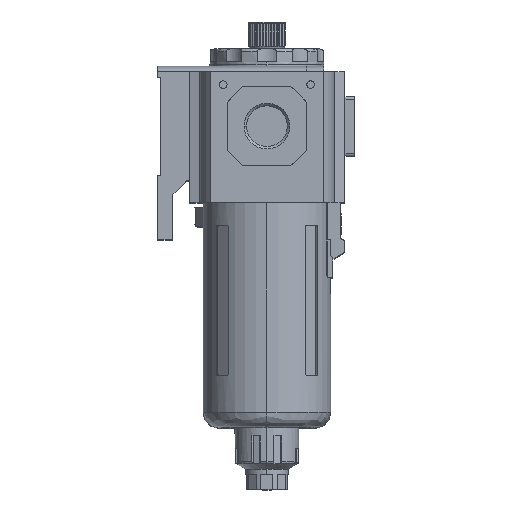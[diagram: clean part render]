
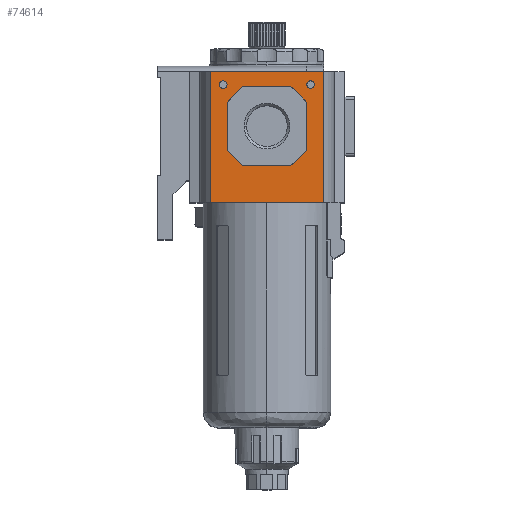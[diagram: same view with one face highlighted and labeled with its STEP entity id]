
A CAD part, top view. The second image highlights one B-rep face of the part: STEP entity #74614.
In plain terms, the highlighted planar face has unit normal (0, 0, 1).
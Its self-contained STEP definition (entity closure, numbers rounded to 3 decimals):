
#118 = CARTESIAN_POINT ( 'NONE',  ( 0., 25., 118. ) ) ;
#421 = EDGE_LOOP ( 'NONE', ( #84205, #5687, #84045, #11872 ) ) ;
#860 = ORIENTED_EDGE ( 'NONE', *, *, #77467, .T. ) ;
#1846 = DIRECTION ( 'NONE',  ( 0., 0., -1. ) ) ;
#3131 = ORIENTED_EDGE ( 'NONE', *, *, #83010, .F. ) ;
#3218 = CARTESIAN_POINT ( 'NONE',  ( 18.25, 19., 118. ) ) ;
#4261 = ORIENTED_EDGE ( 'NONE', *, *, #77074, .T. ) ;
#4392 = LINE ( 'NONE', #63467, #58930 ) ;
#4476 = CARTESIAN_POINT ( 'NONE',  ( 26., -35., 118. ) ) ;
#5687 = ORIENTED_EDGE ( 'NONE', *, *, #78555, .F. ) ;
#5715 = AXIS2_PLACEMENT_3D ( 'NONE', #35099, #7613, #42508 ) ;
#6209 = EDGE_CURVE ( 'NONE', #7912, #22735, #31736, .T. ) ;
#6896 = ORIENTED_EDGE ( 'NONE', *, *, #89809, .F. ) ;
#7613 = DIRECTION ( 'NONE',  ( 0., 0., -1. ) ) ;
#7912 = VERTEX_POINT ( 'NONE', #24900 ) ;
#8388 = CARTESIAN_POINT ( 'NONE',  ( 20., 19., 118. ) ) ;
#8746 = EDGE_LOOP ( 'NONE', ( #49155, #6896, #4261, #75409, #860, #71697, #43169, #3131 ) ) ;
#8793 = VECTOR ( 'NONE', #72479, 1000. ) ;
#8865 = AXIS2_PLACEMENT_3D ( 'NONE', #87047, #74004, #16283 ) ;
#9017 = AXIS2_PLACEMENT_3D ( 'NONE', #8388, #1846, #88819 ) ;
#10400 = DIRECTION ( 'NONE',  ( -0.707, -0.707, 0. ) ) ;
#10912 = CARTESIAN_POINT ( 'NONE',  ( 14., -15., 118. ) ) ;
#11872 = ORIENTED_EDGE ( 'NONE', *, *, #33104, .T. ) ;
#12635 = LINE ( 'NONE', #91559, #85921 ) ;
#12652 = CARTESIAN_POINT ( 'NONE',  ( -20., 19., 118. ) ) ;
#13130 = ORIENTED_EDGE ( 'NONE', *, *, #15030, .T. ) ;
#14952 = VECTOR ( 'NONE', #10400, 1000. ) ;
#15030 = EDGE_CURVE ( 'NONE', #22735, #7912, #43018, .T. ) ;
#15329 = CARTESIAN_POINT ( 'NONE',  ( -26., -35., 118. ) ) ;
#16283 = DIRECTION ( 'NONE',  ( 1., 0., 0. ) ) ;
#16629 = CARTESIAN_POINT ( 'NONE',  ( -26., -35., 118. ) ) ;
#16875 = VERTEX_POINT ( 'NONE', #10912 ) ;
#17642 = FACE_BOUND ( 'NONE', #8746, .T. ) ;
#18190 = LINE ( 'NONE', #70595, #20427 ) ;
#18534 = CARTESIAN_POINT ( 'NONE',  ( 15., -14., 118. ) ) ;
#19806 = DIRECTION ( 'NONE',  ( 1., 0., 0. ) ) ;
#19944 = EDGE_LOOP ( 'NONE', ( #13130, #46475 ) ) ;
#19984 = VERTEX_POINT ( 'NONE', #51439 ) ;
#20427 = VECTOR ( 'NONE', #35350, 1000. ) ;
#20608 = CARTESIAN_POINT ( 'NONE',  ( -14., -15., 118. ) ) ;
#21726 = LINE ( 'NONE', #28161, #50626 ) ;
#22720 = EDGE_CURVE ( 'NONE', #57168, #59897, #26877, .T. ) ;
#22735 = VERTEX_POINT ( 'NONE', #41691 ) ;
#23401 = VERTEX_POINT ( 'NONE', #74630 ) ;
#23850 = VERTEX_POINT ( 'NONE', #39142 ) ;
#24159 = EDGE_CURVE ( 'NONE', #70933, #91864, #21726, .T. ) ;
#24334 = DIRECTION ( 'NONE',  ( 1., 0., 0. ) ) ;
#24900 = CARTESIAN_POINT ( 'NONE',  ( -21.75, 19., 118. ) ) ;
#26877 = CIRCLE ( 'NONE', #70640, 1.75 ) ;
#28161 = CARTESIAN_POINT ( 'NONE',  ( -15., -35., 118. ) ) ;
#29567 = CIRCLE ( 'NONE', #9017, 1.75 ) ;
#30491 = AXIS2_PLACEMENT_3D ( 'NONE', #12652, #90204, #19806 ) ;
#31013 = CARTESIAN_POINT ( 'NONE',  ( -15., 14., 118. ) ) ;
#31367 = LINE ( 'NONE', #56500, #84620 ) ;
#31736 = CIRCLE ( 'NONE', #30491, 1.75 ) ;
#31812 = VERTEX_POINT ( 'NONE', #15329 ) ;
#33104 = EDGE_CURVE ( 'NONE', #65363, #31812, #33361, .T. ) ;
#33361 = LINE ( 'NONE', #16629, #8793 ) ;
#33517 = DIRECTION ( 'NONE',  ( 0., -1., 0. ) ) ;
#33948 = LINE ( 'NONE', #31013, #14952 ) ;
#35078 = DIRECTION ( 'NONE',  ( 0.707, 0.707, 0. ) ) ;
#35099 = CARTESIAN_POINT ( 'NONE',  ( -20., 19., 118. ) ) ;
#35350 = DIRECTION ( 'NONE',  ( 0., -1., 0. ) ) ;
#35659 = DIRECTION ( 'NONE',  ( 1., 0., 0. ) ) ;
#36364 = EDGE_CURVE ( 'NONE', #16875, #62669, #84436, .T. ) ;
#38952 = VECTOR ( 'NONE', #24334, 1000. ) ;
#39142 = CARTESIAN_POINT ( 'NONE',  ( -14., 15., 118. ) ) ;
#40725 = VECTOR ( 'NONE', #35659, 1000. ) ;
#41691 = CARTESIAN_POINT ( 'NONE',  ( -18.25, 19., 118. ) ) ;
#42508 = DIRECTION ( 'NONE',  ( 1., 0., 0. ) ) ;
#43018 = CIRCLE ( 'NONE', #5715, 1.75 ) ;
#43169 = ORIENTED_EDGE ( 'NONE', *, *, #24159, .T. ) ;
#43387 = DIRECTION ( 'NONE',  ( 0., 1., 0. ) ) ;
#43938 = CARTESIAN_POINT ( 'NONE',  ( -26., 25., 118. ) ) ;
#45743 = CARTESIAN_POINT ( 'NONE',  ( 26., 25., 118. ) ) ;
#45782 = CARTESIAN_POINT ( 'NONE',  ( 26., 15., 118. ) ) ;
#45840 = PLANE ( 'NONE',  #8865 ) ;
#46475 = ORIENTED_EDGE ( 'NONE', *, *, #6209, .T. ) ;
#48482 = LINE ( 'NONE', #118, #40725 ) ;
#49155 = ORIENTED_EDGE ( 'NONE', *, *, #69058, .T. ) ;
#50626 = VECTOR ( 'NONE', #43387, 1000. ) ;
#51439 = CARTESIAN_POINT ( 'NONE',  ( 15., 14., 118. ) ) ;
#52484 = VERTEX_POINT ( 'NONE', #45743 ) ;
#53393 = CARTESIAN_POINT ( 'NONE',  ( -15., 14., 118. ) ) ;
#55263 = ORIENTED_EDGE ( 'NONE', *, *, #22720, .T. ) ;
#56427 = CARTESIAN_POINT ( 'NONE',  ( 15., -14., 118. ) ) ;
#56500 = CARTESIAN_POINT ( 'NONE',  ( 26., -15., 118. ) ) ;
#56708 = LINE ( 'NONE', #45782, #38952 ) ;
#57168 = VERTEX_POINT ( 'NONE', #88182 ) ;
#57947 = CARTESIAN_POINT ( 'NONE',  ( 14., 15., 118. ) ) ;
#58665 = VECTOR ( 'NONE', #33517, 1000. ) ;
#58930 = VECTOR ( 'NONE', #91673, 1000. ) ;
#59730 = EDGE_LOOP ( 'NONE', ( #55263, #87859 ) ) ;
#59897 = VERTEX_POINT ( 'NONE', #3218 ) ;
#61149 = LINE ( 'NONE', #86324, #87765 ) ;
#62669 = VERTEX_POINT ( 'NONE', #18534 ) ;
#63467 = CARTESIAN_POINT ( 'NONE',  ( -14., -15., 118. ) ) ;
#64327 = EDGE_CURVE ( 'NONE', #31812, #23401, #61149, .T. ) ;
#65363 = VERTEX_POINT ( 'NONE', #43938 ) ;
#65556 = VECTOR ( 'NONE', #35078, 1000. ) ;
#67398 = VERTEX_POINT ( 'NONE', #57947 ) ;
#69058 = EDGE_CURVE ( 'NONE', #23850, #67398, #56708, .T. ) ;
#70120 = DIRECTION ( 'NONE',  ( 0., 0., -1. ) ) ;
#70595 = CARTESIAN_POINT ( 'NONE',  ( 15., -35., 118. ) ) ;
#70640 = AXIS2_PLACEMENT_3D ( 'NONE', #91814, #70120, #77306 ) ;
#70851 = EDGE_CURVE ( 'NONE', #59897, #57168, #29567, .T. ) ;
#70933 = VERTEX_POINT ( 'NONE', #82268 ) ;
#71697 = ORIENTED_EDGE ( 'NONE', *, *, #77901, .F. ) ;
#72479 = DIRECTION ( 'NONE',  ( 0., -1., 0. ) ) ;
#74004 = DIRECTION ( 'NONE',  ( 0., 0., 1. ) ) ;
#74614 = ADVANCED_FACE ( 'NONE', ( #85387, #17642, #79749, #90880 ), #45840, .T. ) ;
#74630 = CARTESIAN_POINT ( 'NONE',  ( 26., -35., 118. ) ) ;
#75403 = EDGE_CURVE ( 'NONE', #65363, #52484, #48482, .T. ) ;
#75409 = ORIENTED_EDGE ( 'NONE', *, *, #36364, .F. ) ;
#77074 = EDGE_CURVE ( 'NONE', #19984, #62669, #18190, .T. ) ;
#77306 = DIRECTION ( 'NONE',  ( 1., 0., 0. ) ) ;
#77467 = EDGE_CURVE ( 'NONE', #16875, #82217, #31367, .T. ) ;
#77901 = EDGE_CURVE ( 'NONE', #70933, #82217, #4392, .T. ) ;
#78555 = EDGE_CURVE ( 'NONE', #52484, #23401, #80768, .T. ) ;
#79749 = FACE_BOUND ( 'NONE', #19944, .T. ) ;
#80071 = DIRECTION ( 'NONE',  ( 1., 0., 0. ) ) ;
#80768 = LINE ( 'NONE', #4476, #58665 ) ;
#82217 = VERTEX_POINT ( 'NONE', #20608 ) ;
#82268 = CARTESIAN_POINT ( 'NONE',  ( -15., -14., 118. ) ) ;
#83010 = EDGE_CURVE ( 'NONE', #23850, #91864, #33948, .T. ) ;
#83233 = DIRECTION ( 'NONE',  ( -0.707, 0.707, 0. ) ) ;
#84045 = ORIENTED_EDGE ( 'NONE', *, *, #75403, .F. ) ;
#84205 = ORIENTED_EDGE ( 'NONE', *, *, #64327, .T. ) ;
#84436 = LINE ( 'NONE', #56427, #65556 ) ;
#84620 = VECTOR ( 'NONE', #91777, 1000. ) ;
#85387 = FACE_OUTER_BOUND ( 'NONE', #421, .T. ) ;
#85921 = VECTOR ( 'NONE', #83233, 1000. ) ;
#86324 = CARTESIAN_POINT ( 'NONE',  ( 26., -35., 118. ) ) ;
#87047 = CARTESIAN_POINT ( 'NONE',  ( 26., -35., 118. ) ) ;
#87765 = VECTOR ( 'NONE', #80071, 1000. ) ;
#87859 = ORIENTED_EDGE ( 'NONE', *, *, #70851, .T. ) ;
#88182 = CARTESIAN_POINT ( 'NONE',  ( 21.75, 19., 118. ) ) ;
#88819 = DIRECTION ( 'NONE',  ( 1., 0., 0. ) ) ;
#89809 = EDGE_CURVE ( 'NONE', #19984, #67398, #12635, .T. ) ;
#90204 = DIRECTION ( 'NONE',  ( 0., 0., -1. ) ) ;
#90880 = FACE_BOUND ( 'NONE', #59730, .T. ) ;
#91559 = CARTESIAN_POINT ( 'NONE',  ( 14., 15., 118. ) ) ;
#91673 = DIRECTION ( 'NONE',  ( 0.707, -0.707, 0. ) ) ;
#91777 = DIRECTION ( 'NONE',  ( -1., 0., 0. ) ) ;
#91814 = CARTESIAN_POINT ( 'NONE',  ( 20., 19., 118. ) ) ;
#91864 = VERTEX_POINT ( 'NONE', #53393 ) ;
